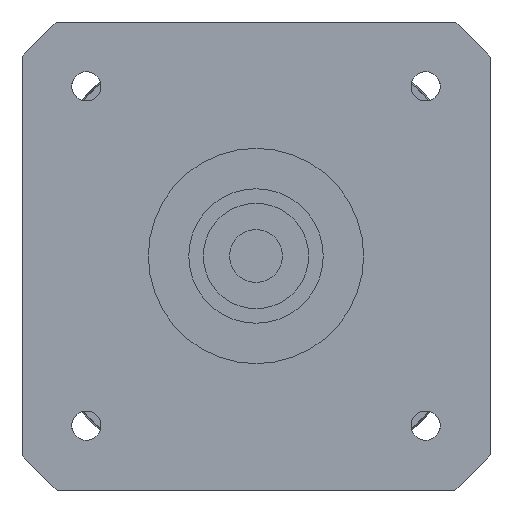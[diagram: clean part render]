
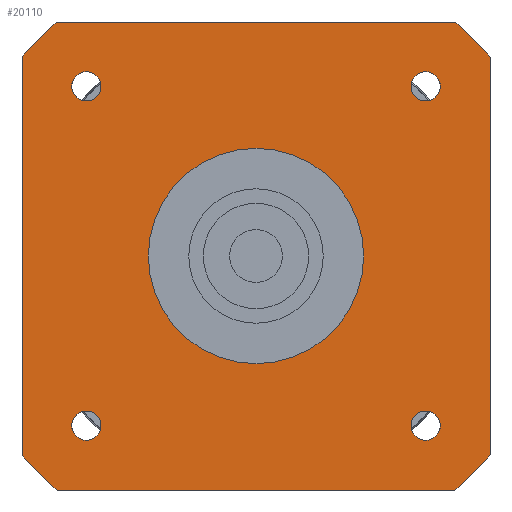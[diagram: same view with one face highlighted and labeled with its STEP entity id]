
A CAD part, left-side view. The second image highlights one B-rep face of the part: STEP entity #20110.
In plain terms, the highlighted planar face has unit normal (-1, 0, 0) as drawn and (0, 0, -1) by its records, which use the part's own axes.
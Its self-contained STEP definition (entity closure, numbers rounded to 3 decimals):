
#14210=CARTESIAN_POINT('',(-34.004,-40.,-44.));
#14220=VERTEX_POINT('',#14210);
#14370=CARTESIAN_POINT('',(34.004,-40.,-44.));
#14380=VERTEX_POINT('',#14370);
#14410=CARTESIAN_POINT('',(-40.,-40.,-44.));
#14420=DIRECTION('',(1.,0.,0.));
#14430=VECTOR('',#14420,1000.);
#14440=LINE('',#14410,#14430);
#14450=EDGE_CURVE('',#14220,#14380,#14440,.T.);
#18300=CARTESIAN_POINT('',(-28.998,-26.498,-44.));
#18310=VERTEX_POINT('',#18300);
#18490=CARTESIAN_POINT('',(-28.998,-31.498,-44.));
#18500=VERTEX_POINT('',#18490);
#18530=CARTESIAN_POINT('',(-28.998,-28.998,-44.));
#18540=DIRECTION('',(0.,0.,-1.));
#18550=DIRECTION('',(1.,0.,0.));
#18560=AXIS2_PLACEMENT_3D('',#18530,#18540,#18550);
#18570=CIRCLE('',#18560,2.5);
#18580=CARTESIAN_POINT('',(-26.498,-28.998,-44.));
#18590=VERTEX_POINT('',#18580);
#18600=EDGE_CURVE('',#18590,#18500,#18570,.T.);
#18620=EDGE_CURVE('',#18310,#18590,#18570,.T.);
#18670=CARTESIAN_POINT('',(40.,40.,-44.));
#18680=DIRECTION('',(0.,0.,1.));
#18690=DIRECTION('',(0.,1.,0.));
#18700=AXIS2_PLACEMENT_3D('',#18670,#18680,#18690);
#18710=PLANE('',#18700);
#18720=CARTESIAN_POINT('',(28.998,28.998,-44.));
#18730=DIRECTION('',(0.,0.,-1.));
#18740=DIRECTION('',(1.,0.,0.));
#18750=AXIS2_PLACEMENT_3D('',#18720,#18730,#18740);
#18760=CIRCLE('',#18750,2.5);
#18770=CARTESIAN_POINT('',(31.498,28.998,-44.));
#18780=VERTEX_POINT('',#18770);
#18790=CARTESIAN_POINT('',(28.998,26.498,-44.));
#18800=VERTEX_POINT('',#18790);
#18810=EDGE_CURVE('',#18780,#18800,#18760,.T.);
#18820=ORIENTED_EDGE('',*,*,#18810,.F.);
#18830=CARTESIAN_POINT('',(28.998,31.498,-44.));
#18840=VERTEX_POINT('',#18830);
#18850=EDGE_CURVE('',#18800,#18840,#18760,.T.);
#18860=ORIENTED_EDGE('',*,*,#18850,.F.);
#18870=EDGE_CURVE('',#18840,#18780,#18760,.T.);
#18880=ORIENTED_EDGE('',*,*,#18870,.F.);
#18890=EDGE_LOOP('',(#18880,#18860,#18820));
#18900=FACE_BOUND('',#18890,.T.);
#18910=CARTESIAN_POINT('',(-28.998,28.998,-44.));
#18920=DIRECTION('',(0.,0.,-1.));
#18930=DIRECTION('',(1.,0.,0.));
#18940=AXIS2_PLACEMENT_3D('',#18910,#18920,#18930);
#18950=CIRCLE('',#18940,2.5);
#18960=CARTESIAN_POINT('',(-26.498,28.998,-44.));
#18970=VERTEX_POINT('',#18960);
#18980=CARTESIAN_POINT('',(-28.998,26.498,-44.));
#18990=VERTEX_POINT('',#18980);
#19000=EDGE_CURVE('',#18970,#18990,#18950,.T.);
#19010=ORIENTED_EDGE('',*,*,#19000,.F.);
#19020=CARTESIAN_POINT('',(-28.998,31.498,-44.));
#19030=VERTEX_POINT('',#19020);
#19040=EDGE_CURVE('',#18990,#19030,#18950,.T.);
#19050=ORIENTED_EDGE('',*,*,#19040,.F.);
#19060=EDGE_CURVE('',#19030,#18970,#18950,.T.);
#19070=ORIENTED_EDGE('',*,*,#19060,.F.);
#19080=EDGE_LOOP('',(#19070,#19050,#19010));
#19090=FACE_BOUND('',#19080,.T.);
#19100=CARTESIAN_POINT('',(0.,0.,-44.));
#19110=DIRECTION('',(0.,0.,1.));
#19120=DIRECTION('',(0.,-1.,0.));
#19130=AXIS2_PLACEMENT_3D('',#19100,#19110,#19120);
#19140=CIRCLE('',#19130,18.4);
#19150=CARTESIAN_POINT('',(0.,-18.4,-44.));
#19160=VERTEX_POINT('',#19150);
#19170=CARTESIAN_POINT('',(0.,18.4,-44.));
#19180=VERTEX_POINT('',#19170);
#19190=EDGE_CURVE('',#19160,#19180,#19140,.T.);
#19200=ORIENTED_EDGE('',*,*,#19190,.T.);
#19210=EDGE_CURVE('',#19180,#19160,#19140,.T.);
#19220=ORIENTED_EDGE('',*,*,#19210,.T.);
#19230=EDGE_LOOP('',(#19220,#19200));
#19240=FACE_BOUND('',#19230,.T.);
#19250=ORIENTED_EDGE('',*,*,#18600,.F.);
#19260=EDGE_CURVE('',#18500,#18310,#18570,.T.);
#19270=ORIENTED_EDGE('',*,*,#19260,.F.);
#19280=ORIENTED_EDGE('',*,*,#18620,.F.);
#19290=EDGE_LOOP('',(#19280,#19270,#19250));
#19300=FACE_BOUND('',#19290,.T.);
#19310=CARTESIAN_POINT('',(28.998,-28.998,-44.));
#19320=DIRECTION('',(0.,0.,-1.));
#19330=DIRECTION('',(1.,0.,0.));
#19340=AXIS2_PLACEMENT_3D('',#19310,#19320,#19330);
#19350=CIRCLE('',#19340,2.5);
#19360=CARTESIAN_POINT('',(31.498,-28.998,-44.));
#19370=VERTEX_POINT('',#19360);
#19380=CARTESIAN_POINT('',(28.998,-31.498,-44.));
#19390=VERTEX_POINT('',#19380);
#19400=EDGE_CURVE('',#19370,#19390,#19350,.T.);
#19410=ORIENTED_EDGE('',*,*,#19400,.F.);
#19420=CARTESIAN_POINT('',(28.998,-26.498,-44.));
#19430=VERTEX_POINT('',#19420);
#19440=EDGE_CURVE('',#19390,#19430,#19350,.T.);
#19450=ORIENTED_EDGE('',*,*,#19440,.F.);
#19460=EDGE_CURVE('',#19430,#19370,#19350,.T.);
#19470=ORIENTED_EDGE('',*,*,#19460,.F.);
#19480=EDGE_LOOP('',(#19470,#19450,#19410));
#19490=FACE_BOUND('',#19480,.T.);
#19500=CARTESIAN_POINT('',(0.,0.,
-44.));
#19510=DIRECTION('',(0.,0.,1.));
#19520=DIRECTION('',(1.,0.,0.));
#19530=AXIS2_PLACEMENT_3D('',#19500,#19510,#19520);
#19540=CIRCLE('',#19530,52.5);
#19550=CARTESIAN_POINT('',(-34.004,40.,-44.));
#19560=VERTEX_POINT('',#19550);
#19570=CARTESIAN_POINT('',(-40.,34.004,-44.));
#19580=VERTEX_POINT('',#19570);
#19590=EDGE_CURVE('',#19560,#19580,#19540,.T.);
#19600=ORIENTED_EDGE('',*,*,#19590,.F.);
#19610=CARTESIAN_POINT('',(-40.,40.,-44.));
#19620=DIRECTION('',(0.,-1.,0.));
#19630=VECTOR('',#19620,1000.);
#19640=LINE('',#19610,#19630);
#19650=CARTESIAN_POINT('',(-40.,-34.004,-44.));
#19660=VERTEX_POINT('',#19650);
#19670=EDGE_CURVE('',#19580,#19660,#19640,.T.);
#19680=ORIENTED_EDGE('',*,*,#19670,.F.);
#19690=CARTESIAN_POINT('',(0.,0.,
-44.));
#19700=DIRECTION('',(0.,0.,1.));
#19710=DIRECTION('',(1.,0.,0.));
#19720=AXIS2_PLACEMENT_3D('',#19690,#19700,#19710);
#19730=CIRCLE('',#19720,52.5);
#19740=EDGE_CURVE('',#19660,#14220,#19730,.T.);
#19750=ORIENTED_EDGE('',*,*,#19740,.F.);
#19760=ORIENTED_EDGE('',*,*,#14450,.F.);
#19770=CARTESIAN_POINT('',(0.,0.,
-44.));
#19780=DIRECTION('',(0.,0.,1.));
#19790=DIRECTION('',(1.,0.,0.));
#19800=AXIS2_PLACEMENT_3D('',#19770,#19780,#19790);
#19810=CIRCLE('',#19800,52.5);
#19820=CARTESIAN_POINT('',(40.,-34.004,-44.));
#19830=VERTEX_POINT('',#19820);
#19840=EDGE_CURVE('',#14380,#19830,#19810,.T.);
#19850=ORIENTED_EDGE('',*,*,#19840,.F.);
#19860=CARTESIAN_POINT('',(40.,-40.,-44.));
#19870=DIRECTION('',(0.,1.,0.));
#19880=VECTOR('',#19870,1000.);
#19890=LINE('',#19860,#19880);
#19900=CARTESIAN_POINT('',(40.,34.004,-44.));
#19910=VERTEX_POINT('',#19900);
#19920=EDGE_CURVE('',#19830,#19910,#19890,.T.);
#19930=ORIENTED_EDGE('',*,*,#19920,.F.);
#19940=CARTESIAN_POINT('',(0.,0.,
-44.));
#19950=DIRECTION('',(0.,0.,1.));
#19960=DIRECTION('',(1.,0.,0.));
#19970=AXIS2_PLACEMENT_3D('',#19940,#19950,#19960);
#19980=CIRCLE('',#19970,52.5);
#19990=CARTESIAN_POINT('',(34.004,40.,-44.));
#20000=VERTEX_POINT('',#19990);
#20010=EDGE_CURVE('',#19910,#20000,#19980,.T.);
#20020=ORIENTED_EDGE('',*,*,#20010,.F.);
#20030=CARTESIAN_POINT('',(40.,40.,-44.));
#20040=DIRECTION('',(-1.,0.,0.));
#20050=VECTOR('',#20040,1000.);
#20060=LINE('',#20030,#20050);
#20070=EDGE_CURVE('',#20000,#19560,#20060,.T.);
#20080=ORIENTED_EDGE('',*,*,#20070,.F.);
#20090=EDGE_LOOP('',(#20080,#20020,#19930,#19850,#19760,#19750,#19680,
#19600));
#20100=FACE_OUTER_BOUND('',#20090,.T.);
#20110=ADVANCED_FACE('',(#18900,#19090,#19240,#19300,#19490,#20100),
#18710,.F.);
